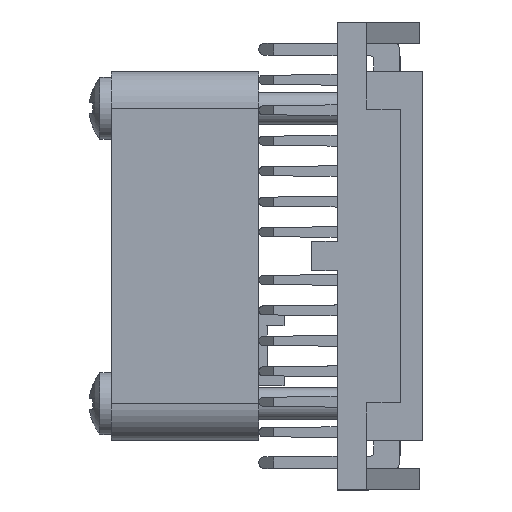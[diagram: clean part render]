
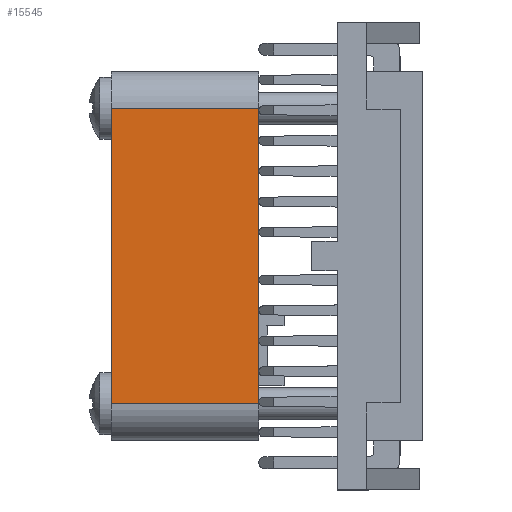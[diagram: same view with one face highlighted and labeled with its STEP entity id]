
A CAD part, left-side view. The second image highlights one B-rep face of the part: STEP entity #15545.
In plain terms, the highlighted planar face has unit normal (-1, 0, 0).
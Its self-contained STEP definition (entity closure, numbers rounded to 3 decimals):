
#71 = CARTESIAN_POINT ( 'NONE',  ( -16.008, 55.3, 6.534 ) ) ;
#118 = VECTOR ( 'NONE', #17622, 1000. ) ;
#308 = EDGE_CURVE ( 'NONE', #10968, #10360, #1666, .T. ) ;
#1186 = LINE ( 'NONE', #12829, #118 ) ;
#1221 = DIRECTION ( 'NONE',  ( 1., 0., 0. ) ) ;
#1374 = EDGE_CURVE ( 'NONE', #10968, #5206, #8314, .T. ) ;
#1565 = CARTESIAN_POINT ( 'NONE',  ( -16.008, 55.3, -13.466 ) ) ;
#1666 = LINE ( 'NONE', #11570, #2042 ) ;
#1859 = LINE ( 'NONE', #12436, #18493 ) ;
#2042 = VECTOR ( 'NONE', #7262, 1000. ) ;
#3605 = CARTESIAN_POINT ( 'NONE',  ( -16.008, 55.3, 6.534 ) ) ;
#4754 = ORIENTED_EDGE ( 'NONE', *, *, #5357, .F. ) ;
#5206 = VERTEX_POINT ( 'NONE', #3605 ) ;
#5302 = VECTOR ( 'NONE', #15461, 1000. ) ;
#5357 = EDGE_CURVE ( 'NONE', #5206, #12135, #1859, .T. ) ;
#5487 = AXIS2_PLACEMENT_3D ( 'NONE', #71, #1221, #14286 ) ;
#6576 = DIRECTION ( 'NONE',  ( 0., -1., 0. ) ) ;
#6577 = CARTESIAN_POINT ( 'NONE',  ( -16.008, 55.3, 6.534 ) ) ;
#6624 = CARTESIAN_POINT ( 'NONE',  ( -16.008, 45.3, -13.466 ) ) ;
#6825 = EDGE_LOOP ( 'NONE', ( #10841, #4754, #11120, #11692 ) ) ;
#7262 = DIRECTION ( 'NONE',  ( 0., -1., 0. ) ) ;
#7294 = PLANE ( 'NONE',  #5487 ) ;
#8314 = LINE ( 'NONE', #6577, #5302 ) ;
#10360 = VERTEX_POINT ( 'NONE', #6624 ) ;
#10841 = ORIENTED_EDGE ( 'NONE', *, *, #13386, .T. ) ;
#10968 = VERTEX_POINT ( 'NONE', #1565 ) ;
#11120 = ORIENTED_EDGE ( 'NONE', *, *, #1374, .F. ) ;
#11570 = CARTESIAN_POINT ( 'NONE',  ( -16.008, 55.3, -13.466 ) ) ;
#11692 = ORIENTED_EDGE ( 'NONE', *, *, #308, .T. ) ;
#12135 = VERTEX_POINT ( 'NONE', #18482 ) ;
#12436 = CARTESIAN_POINT ( 'NONE',  ( -16.008, 55.3, 6.534 ) ) ;
#12829 = CARTESIAN_POINT ( 'NONE',  ( -16.008, 45.3, 6.534 ) ) ;
#13386 = EDGE_CURVE ( 'NONE', #10360, #12135, #1186, .T. ) ;
#14286 = DIRECTION ( 'NONE',  ( 0., 0., -1. ) ) ;
#15461 = DIRECTION ( 'NONE',  ( 0., 0., 1. ) ) ;
#15545 = ADVANCED_FACE ( 'NONE', ( #18444 ), #7294, .F. ) ;
#17622 = DIRECTION ( 'NONE',  ( 0., 0., 1. ) ) ;
#18444 = FACE_OUTER_BOUND ( 'NONE', #6825, .T. ) ;
#18482 = CARTESIAN_POINT ( 'NONE',  ( -16.008, 45.3, 6.534 ) ) ;
#18493 = VECTOR ( 'NONE', #6576, 1000. ) ;
